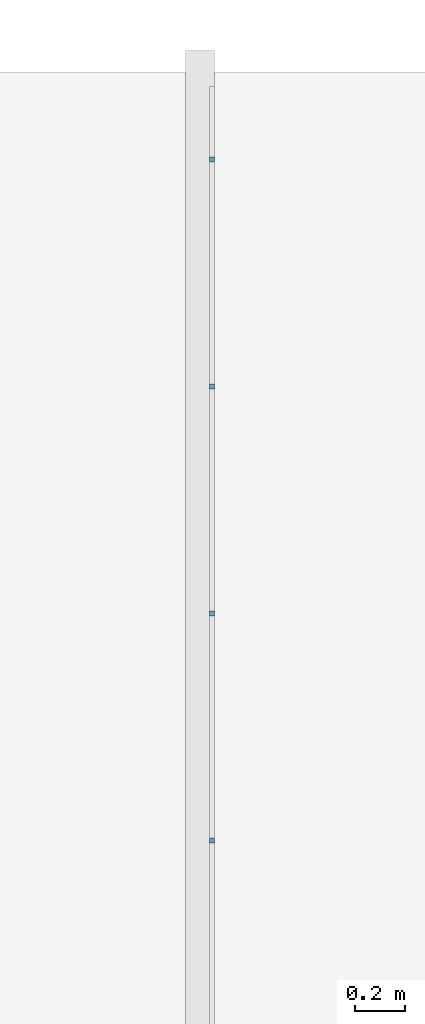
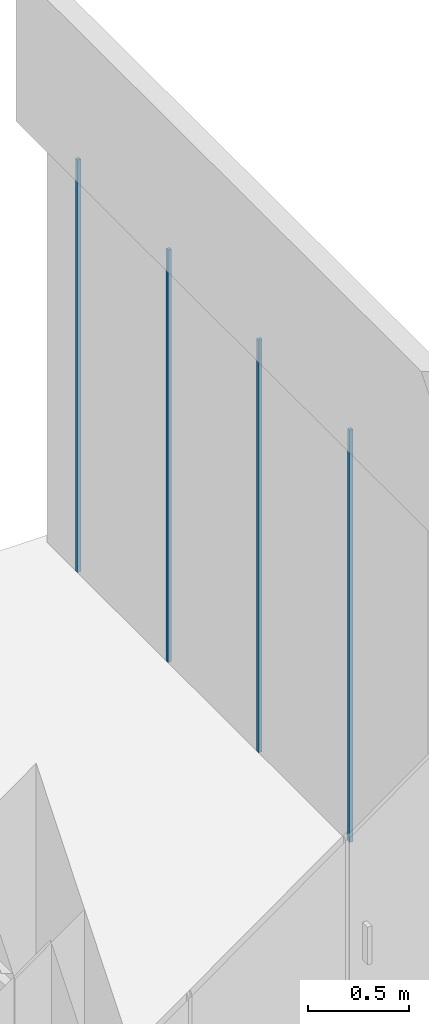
# One storey, part 2 of 14: 4 members, 1 element without a shape of its own.
"""IFC2X3 building model written with IfcOpenShell, lengths in millimetres."""

from ifc_helpers import new_model, entity, si_unit, converted_unit, derived_unit, direction, frame, origin, origin_2d_with_axis, place, context, subcontext, project, spatial, rectangle, extrude, source, transform, mapped, material, type_object, type_shapes, element, aggregate, save


model = new_model("IFC2X3")

# Units and contexts
model_context = context("Model", 3, precision=0.01, world=origin(), true_north=direction((6.12303176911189e-17, 1.0)))
body_context = subcontext(model_context, "Body", "Model", "MODEL_VIEW")
ifc_project = project(units=[si_unit("LENGTHUNIT", "METRE", prefix="MILLI"), si_unit("AREAUNIT", "SQUARE_METRE"), si_unit("VOLUMEUNIT", "CUBIC_METRE"), converted_unit("PLANEANGLEUNIT", "DEGREE", entity("IfcRatioMeasure", 0.0174532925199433), si_unit("PLANEANGLEUNIT", "RADIAN"), dimensions=[0, 0, 0, 0, 0, 0, 0]), si_unit("MASSUNIT", "GRAM", prefix="KILO"), derived_unit("MASSDENSITYUNIT", [(si_unit("MASSUNIT", "GRAM", prefix="KILO"), 1), (si_unit("LENGTHUNIT", "METRE"), -3)]), si_unit("TIMEUNIT", "SECOND"), si_unit("FREQUENCYUNIT", "HERTZ"), si_unit("THERMODYNAMICTEMPERATUREUNIT", "DEGREE_CELSIUS"), derived_unit("THERMALTRANSMITTANCEUNIT", [(si_unit("MASSUNIT", "GRAM", prefix="KILO"), 1), (si_unit("THERMODYNAMICTEMPERATUREUNIT", "KELVIN"), -1), (si_unit("TIMEUNIT", "SECOND"), -3)]), derived_unit("VOLUMETRICFLOWRATEUNIT", [(si_unit("LENGTHUNIT", "METRE"), 3), (si_unit("TIMEUNIT", "SECOND"), -1)]), si_unit("ELECTRICCURRENTUNIT", "AMPERE"), si_unit("ELECTRICVOLTAGEUNIT", "VOLT"), si_unit("POWERUNIT", "WATT"), si_unit("FORCEUNIT", "NEWTON", prefix="KILO"), si_unit("ILLUMINANCEUNIT", "LUX"), si_unit("LUMINOUSFLUXUNIT", "LUMEN"), si_unit("LUMINOUSINTENSITYUNIT", "CANDELA"), derived_unit("USERDEFINED", [(si_unit("MASSUNIT", "GRAM", prefix="KILO"), -1), (si_unit("LENGTHUNIT", "METRE"), -2), (si_unit("TIMEUNIT", "SECOND"), 3), (si_unit("LUMINOUSFLUXUNIT", "LUMEN"), 1)]), derived_unit("LINEARVELOCITYUNIT", [(si_unit("LENGTHUNIT", "METRE"), 1), (si_unit("TIMEUNIT", "SECOND"), -1)]), si_unit("PRESSUREUNIT", "PASCAL"), derived_unit("USERDEFINED", [(si_unit("LENGTHUNIT", "METRE"), -2), (si_unit("MASSUNIT", "GRAM", prefix="KILO"), 1), (si_unit("TIMEUNIT", "SECOND"), -2)])], contexts=[model_context])

# Site, building, storey
site_placement = place(None, frame((-151.875543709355, 2715.0, 0.0)))
site = spatial("IfcSite", under=ifc_project, at=site_placement, Name="Surface", CompositionType="ELEMENT")
building_placement = place(site_placement, origin())
building = spatial("IfcBuilding", under=site, at=building_placement, CompositionType="ELEMENT")
storey_placement = place(building_placement, frame((0.0, 0.0, 3875.0)))
storey = spatial("IfcBuildingStorey", under=building, at=storey_placement, Name="uus 2 korrus", CompositionType="ELEMENT", Elevation=3875.00000000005)

# Curtain wall, members
curtain_wall_type = type_object("IfcCurtainWallType", Name="Curtain Wall:Klaassein KLS-16", PredefinedType="NOTDEFINED")
curtain_wall_placement = place(storey_placement, frame((0.0, 0.0, -3875.0)))
curtain_wall = element("IfcCurtainWall", 1, at=curtain_wall_placement, inside=storey, type_object=curtain_wall_type, Name="Curtain Wall:Klaassein KLS-16", ObjectType="Curtain Wall:Klaassein KLS-16")
ifc_material = material(Name="__Uks_hele tamm")
member_type = type_object("IfcMemberType", Name="20 x 20mm", PredefinedType="MEMBER")
shared_shape = source(origin(), body_context, "Body", "SweptSolid", [
    extrude(rectangle(XDim=20.0, YDim=20.0, at=origin_2d_with_axis()), frame((0.0, 0.0, -2500.0), z_axis=(0.0, 0.0, 1.0), x_axis=(0.0, -1.0, 0.0)), (0.0, 0.0, 1.0), 2500.00000000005),
])
type_shapes(member_type, [shared_shape])
member_1_placement = place(storey_placement, frame((34321.3161980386, 26210.0, 0.0), z_axis=(0.0, 0.0, -1.0), x_axis=(0.0, -1.0, 0.0)))
member_1 = element("IfcMember", 2, at=member_1_placement, type_object=member_type, material=ifc_material, Name="Rectangular Mullion:20 x 20mm", ObjectType="20 x 20mm", context=body_context, shape_type="MappedRepresentation", body=[
    mapped(shared_shape, transform((0.0, 0.0, 0.0), scale=1.0)),
])
member_2_placement = place(storey_placement, frame((34321.3161980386, 25310.0, 0.0), z_axis=(0.0, 0.0, -1.0), x_axis=(0.0, -1.0, 0.0)))
member_2 = element("IfcMember", 3, at=member_2_placement, type_object=member_type, material=ifc_material, Name="Rectangular Mullion:20 x 20mm", ObjectType="20 x 20mm", context=body_context, shape_type="MappedRepresentation", body=[
    mapped(shared_shape, transform((0.0, 0.0, 0.0), scale=1.0)),
])
member_3_placement = place(storey_placement, frame((34321.3161980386, 24410.0, 0.0), z_axis=(0.0, 0.0, -1.0), x_axis=(0.0, -1.0, 0.0)))
member_3 = element("IfcMember", 4, at=member_3_placement, type_object=member_type, material=ifc_material, Name="Rectangular Mullion:20 x 20mm", ObjectType="20 x 20mm", context=body_context, shape_type="MappedRepresentation", body=[
    mapped(shared_shape, transform((0.0, 0.0, 0.0), scale=1.0)),
])
member_4_placement = place(storey_placement, frame((34321.3161980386, 23510.0, 0.0), z_axis=(0.0, 0.0, -1.0), x_axis=(0.0, -1.0, 0.0)))
member_4 = element("IfcMember", 5, at=member_4_placement, type_object=member_type, material=ifc_material, Name="Rectangular Mullion:20 x 20mm", ObjectType="20 x 20mm", context=body_context, shape_type="MappedRepresentation", body=[
    mapped(shared_shape, transform((0.0, 0.0, 0.0), scale=1.0)),
])
aggregate(curtain_wall, [member_1, member_2, member_3, member_4])

save(model, "model.ifc")
